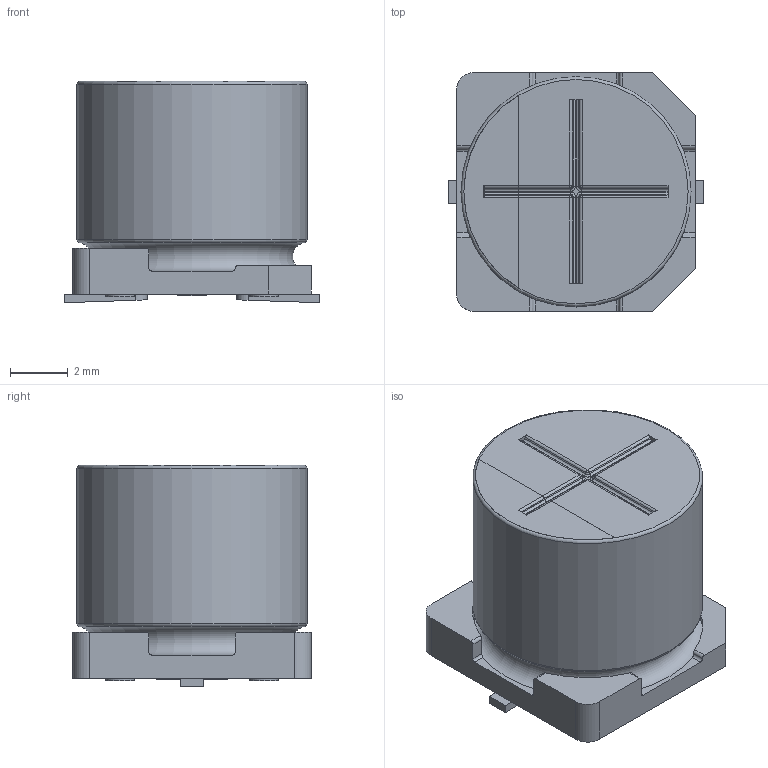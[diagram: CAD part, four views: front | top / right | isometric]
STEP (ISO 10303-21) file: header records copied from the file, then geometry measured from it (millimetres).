
FILE_DESCRIPTION(/* description */ (''),/* implementation_level */ '2;1');
FILE_NAME(/* name */ '8x7.7_Chip.stp',/* time_stamp */ '2017-09-04T17:41:01+09:00',/* author */ (''),/* organization */ (''),/* preprocessor_version */ 'ST-DEVELOPER v16',/* originating_system */ 'SIEMENS PLM Software NX 11.0',/* authorisation */ '');
FILE_SCHEMA (('AUTOMOTIVE_DESIGN { 1 0 10303 214 3 1 1 1 }'));
Length unit declared in the file: millimetre
Products named in the file (1): 8x7.7_Chip_0
Bounding box: 8.9 x 8.3 x 7.7 mm (x, y, z)
Volume: 383.9 mm3; surface area: 485.4 mm2
Topology: 5 solids, 5 shells, 132 faces, 330 edges, 210 vertices
Faces by surface type: plane 61, cylinder 60, sphere 4, bspline 4, torus 3
Full cylindrical faces by diameter (mm): 1 x4, 8 x1
Entity records: 4212 total; most frequent: CARTESIAN_POINT 919, DIRECTION 670, ORIENTED_EDGE 634, EDGE_CURVE 317, AXIS2_PLACEMENT_3D 240, VERTEX_POINT 209, LINE 190, VECTOR 190
